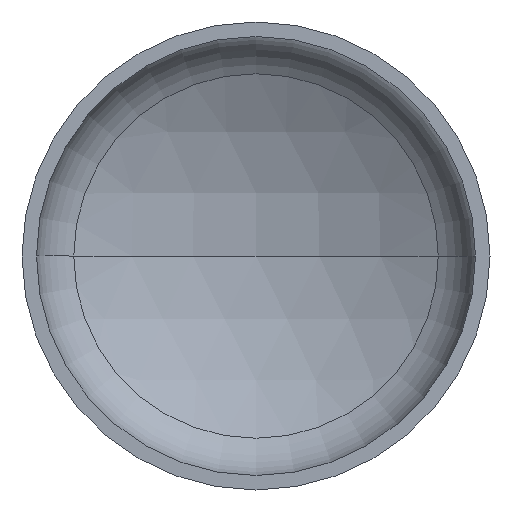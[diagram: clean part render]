
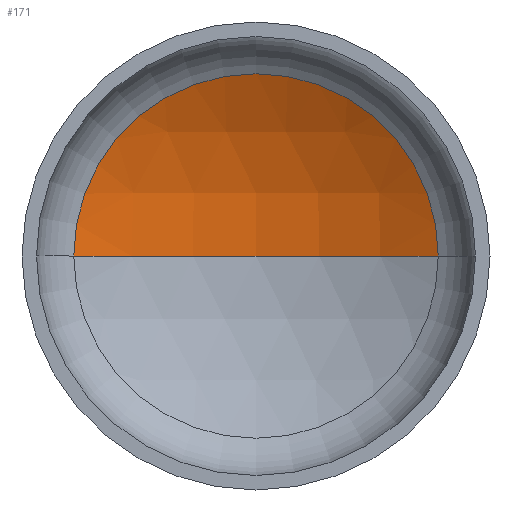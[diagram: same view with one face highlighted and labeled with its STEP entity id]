
A CAD part, front view. The second image highlights one B-rep face of the part: STEP entity #171.
In plain terms, the highlighted spherical face has radius 1600 mm.
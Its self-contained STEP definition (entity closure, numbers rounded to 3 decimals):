
#18 = DIRECTION ( 'NONE',  ( -1., 0., 0. ) ) ;
#20 = VERTEX_POINT ( 'NONE', #278 ) ;
#38 = ORIENTED_EDGE ( 'NONE', *, *, #349, .T. ) ;
#44 = AXIS2_PLACEMENT_3D ( 'NONE', #266, #165, #303 ) ;
#47 = ORIENTED_EDGE ( 'NONE', *, *, #386, .F. ) ;
#56 = VERTEX_POINT ( 'NONE', #269 ) ;
#62 = CIRCLE ( 'NONE', #44, 778.915 ) ;
#71 = VERTEX_POINT ( 'NONE', #240 ) ;
#92 = AXIS2_PLACEMENT_3D ( 'NONE', #324, #322, #18 ) ;
#155 = AXIS2_PLACEMENT_3D ( 'NONE', #384, #236, #402 ) ;
#165 = DIRECTION ( 'NONE',  ( 0., -1., 0. ) ) ;
#171 = ADVANCED_FACE ( 'NONE', ( #337 ), #205, .F. ) ;
#182 = DIRECTION ( 'NONE',  ( 0., 0., -1. ) ) ;
#191 = AXIS2_PLACEMENT_3D ( 'NONE', #332, #182, #360 ) ;
#205 = SPHERICAL_SURFACE ( 'NONE', #92, 1600. ) ;
#236 = DIRECTION ( 'NONE',  ( 0., 0., 1. ) ) ;
#240 = CARTESIAN_POINT ( 'NONE',  ( 778.915, 390.785, 0. ) ) ;
#266 = CARTESIAN_POINT ( 'NONE',  ( 0., 390.785, 0. ) ) ;
#269 = CARTESIAN_POINT ( 'NONE',  ( 0., 593.183, 0. ) ) ;
#278 = CARTESIAN_POINT ( 'NONE',  ( -778.915, 390.785, 0. ) ) ;
#281 = CIRCLE ( 'NONE', #191, 1600. ) ;
#296 = CIRCLE ( 'NONE', #155, 1600. ) ;
#303 = DIRECTION ( 'NONE',  ( 1., 0., 0. ) ) ;
#311 = EDGE_LOOP ( 'NONE', ( #47, #385, #38 ) ) ;
#322 = DIRECTION ( 'NONE',  ( 0., 0., -1. ) ) ;
#324 = CARTESIAN_POINT ( 'NONE',  ( 0., -1006.817, 0. ) ) ;
#332 = CARTESIAN_POINT ( 'NONE',  ( 0., -1006.817, 0. ) ) ;
#337 = FACE_OUTER_BOUND ( 'NONE', #311, .T. ) ;
#349 = EDGE_CURVE ( 'NONE', #71, #20, #62, .T. ) ;
#360 = DIRECTION ( 'NONE',  ( -1., 0., 0. ) ) ;
#384 = CARTESIAN_POINT ( 'NONE',  ( 0., -1006.817, 0. ) ) ;
#385 = ORIENTED_EDGE ( 'NONE', *, *, #393, .T. ) ;
#386 = EDGE_CURVE ( 'NONE', #56, #20, #296, .T. ) ;
#393 = EDGE_CURVE ( 'NONE', #56, #71, #281, .T. ) ;
#402 = DIRECTION ( 'NONE',  ( 1., 0., 0. ) ) ;
